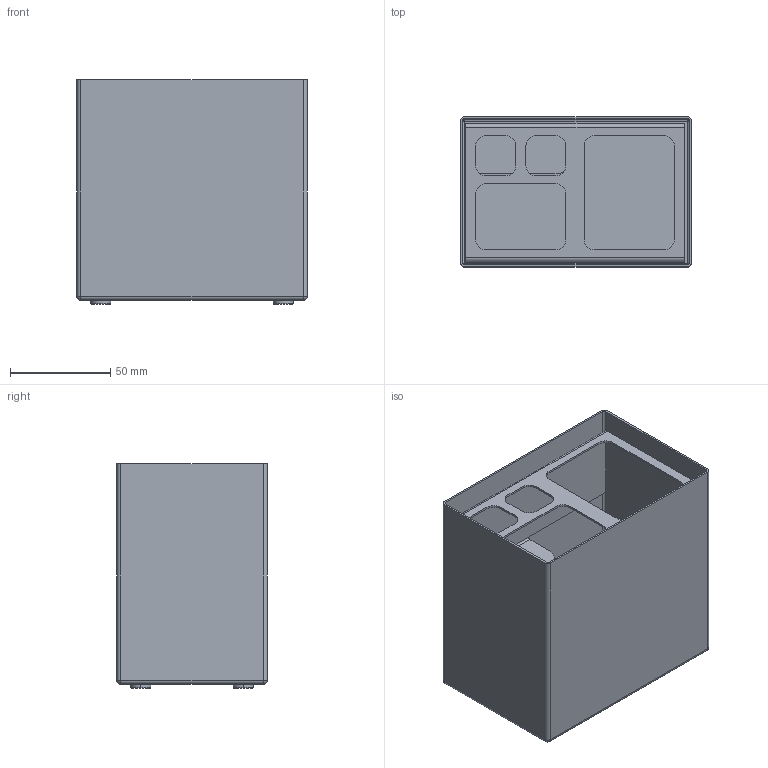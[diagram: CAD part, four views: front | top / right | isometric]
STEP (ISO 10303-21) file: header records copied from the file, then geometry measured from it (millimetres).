
FILE_DESCRIPTION (( 'STEP AP203' ), '1' );
FILE_NAME ('Kubek do szczoteczek elektrycznych.STEP', '2021-11-08T12:11:57', ( '' ), ( '' ), 'SwSTEP 2.0', 'SolidWorks 2021', '' );
FILE_SCHEMA (( 'CONFIG_CONTROL_DESIGN' ));
Length unit declared in the file: millimetre
Products named in the file (3): Kubek do szczoteczek elektrycznych - 2; Kubek do szczoteczek elektrycznych - 1; Kubek do szczoteczek elektrycznych
Assembly tree (2 placements, depth 2):
  Kubek do szczoteczek elektrycznych
    Kubek do szczoteczek elektrycznych - 1
    Kubek do szczoteczek elektrycznych - 2
Bounding box: 115 x 75 x 112 mm (x, y, z)
Volume: 75782.4 mm3; surface area: 152199.4 mm2
Topology: 2 solids, 2 shells, 131 faces, 310 edges, 180 vertices
Faces by surface type: plane 62, cylinder 53, torus 8, sphere 8
Entity records: 3987 total; most frequent: DIRECTION 696, CARTESIAN_POINT 618, ORIENTED_EDGE 604, EDGE_CURVE 302, AXIS2_PLACEMENT_3D 258, VERTEX_POINT 180, LINE 180, VECTOR 180
